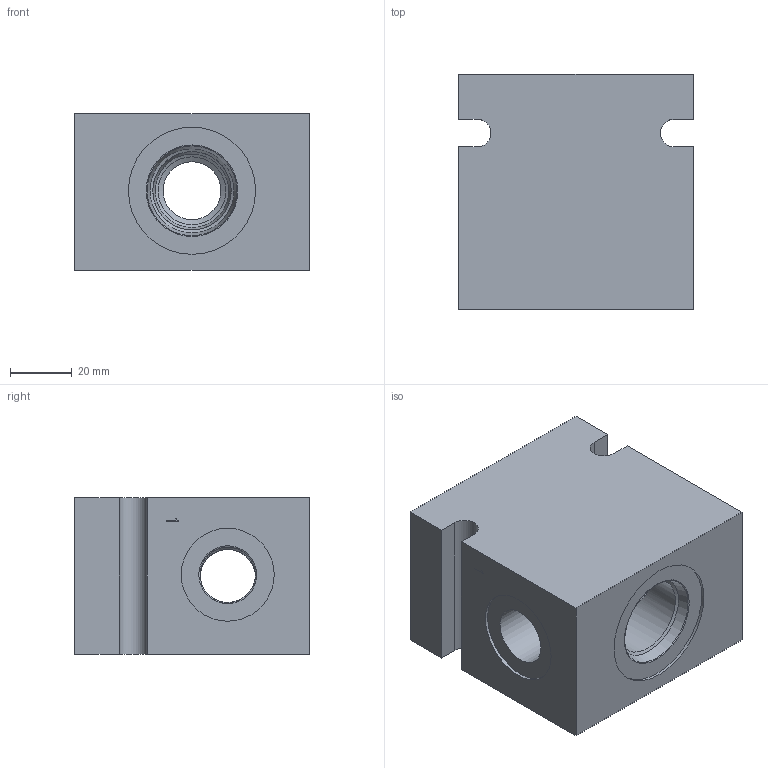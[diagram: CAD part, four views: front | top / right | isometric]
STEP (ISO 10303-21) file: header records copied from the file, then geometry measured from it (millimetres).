
FILE_DESCRIPTION( ( 'Unknown' ), '1' );
FILE_NAME( 'G:/Graphic Design/Graphic Design 2/Data Sheets/Delta Bodies/DRAWINGS/B-DHTC3.stp', 'Unknown', ( 'Unknown' ), ( 'Unknown' ), 'PSStep 16.0.42', 'Unknown', ' ' );
FILE_SCHEMA( ( 'AUTOMOTIVE_DESIGN { 1 0 10303 214 1 1 1 1 }' ) );
Length unit declared in the file: millimetre
Products named in the file (2): Assem1; B-DHTC3
Assembly tree (1 placements, depth 2):
  Assem1
    B-DHTC3
Bounding box: 76.2 x 76.2 x 50.8 mm (x, y, z)
Surface area: 35566.2 mm2 (no closed solid volume)
Topology: 0 solids, 92 shells, 92 faces, 459 edges, 434 vertices
Faces by surface type: plane 65, cylinder 18, cone 8, torus 1
Full cylindrical faces by diameter (mm): 18 x2, 18.8 x6, 22 x1, 23.825 x1, 25.463 x2, 30.17 x3, 41.275 x1
Entity records: 5176 total; most frequent: CARTESIAN_POINT 1486, DIRECTION 484, ORIENTED_EDGE 418, EDGE_CURVE 418, VERTEX_POINT 418, B_SPLINE_CURVE_WITH_KNOTS 192, AXIS2_PLACEMENT_3D 164, LINE 156
